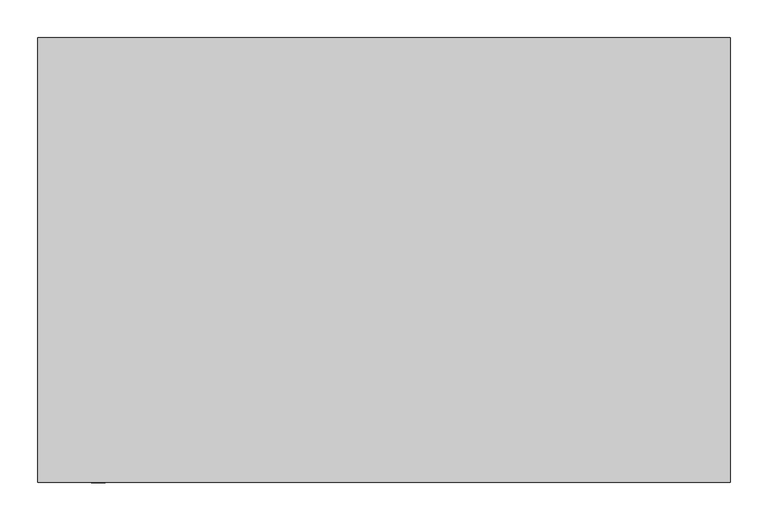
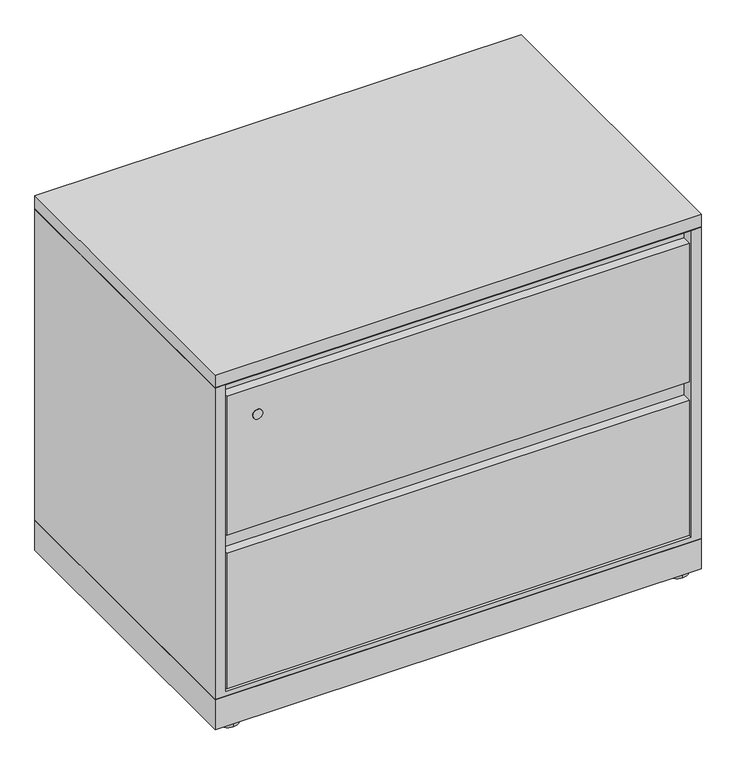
"""IFC4 building model written with IfcOpenShell, lengths in millimetres: furniture geometry, Steelcase - Universal Storage - Lateral File - 2 High - Flush Steel : 23 1/8D x 36W."""

from ifc_helpers import new_model, si_unit, point, frame, frame_2d, origin, origin_with_axes, place, context, project, spatial, polyline, circle_curve, trimmed, segment, composite_curve, outline, extrude, faceted_brep, source, transform, mapped, element, save


def furniture_c1bc510e(model_context):
    return source(origin(), model_context, "Body", "SolidModel", [
        extrude(outline(polyline([(914.4, 587.502), (914.4, 0.0), (0.0, 0.0), (0.0, 587.502), (914.4, 587.502)])), frame((0.0, 0.0, 685.7999516), z_axis=(0.0, 0.0, 1.0), x_axis=(1.0, 0.0, 0.0)), (0.0, 0.0, 1.0), 25.4),
        extrude(outline(polyline([(914.4, 587.502), (914.4, 0.0), (0.0, 0.0), (0.0, 587.502), (914.4, 587.502)])), frame((0.0, 0.0, 6.3500002), z_axis=(0.0, 0.0, 1.0), x_axis=(1.0, 0.0, 0.0)), (0.0, 0.0, 1.0), 59.6899998),
        extrude(outline(composite_curve([segment(trimmed(circle_curve(frame_2d((879.7290058, 565.1653666)), 20.32), [point((879.7290058, 544.8453666))], [point((879.7290058, 585.4853666))], False, "CARTESIAN"), True, "CONTINUOUS"), segment(trimmed(circle_curve(frame_2d((879.7290058, 565.1653666)), 20.32), [point((879.7290058, 585.4853666))], [point((879.7290058, 544.8453666))], False, "CARTESIAN"), True, "CONTINUOUS")], self_intersect=False)), origin_with_axes(), (0.0, 0.0, 1.0), 6.3500002),
        extrude(outline(composite_curve([segment(trimmed(circle_curve(frame_2d((879.7290058, 20.7491455)), 20.32), [point((879.7290058, 0.4291455))], [point((879.7290058, 41.0691455))], False, "CARTESIAN"), True, "CONTINUOUS"), segment(trimmed(circle_curve(frame_2d((879.7290058, 20.7491455)), 20.32), [point((879.7290058, 41.0691455))], [point((879.7290058, 0.4291455))], False, "CARTESIAN"), True, "CONTINUOUS")], self_intersect=False)), origin_with_axes(), (0.0, 0.0, 1.0), 6.3500002),
        extrude(outline(composite_curve([segment(trimmed(circle_curve(frame_2d((34.29, 565.1653666)), 20.32), [point((34.29, 585.4853666))], [point((34.29, 544.8453666))], False, "CARTESIAN"), True, "CONTINUOUS"), segment(trimmed(circle_curve(frame_2d((34.29, 565.1653666)), 20.32), [point((34.29, 544.8453666))], [point((34.29, 585.4853666))], False, "CARTESIAN"), True, "CONTINUOUS")], self_intersect=False)), origin_with_axes(), (0.0, 0.0, 1.0), 6.3500002),
        extrude(outline(composite_curve([segment(trimmed(circle_curve(frame_2d((34.29, 20.7491455)), 20.32), [point((34.29, 41.0691455))], [point((34.29, 0.4291455))], False, "CARTESIAN"), True, "CONTINUOUS"), segment(trimmed(circle_curve(frame_2d((34.29, 20.7491455)), 20.32), [point((34.29, 0.4291455))], [point((34.29, 41.0691455))], False, "CARTESIAN"), True, "CONTINUOUS")], self_intersect=False)), origin_with_axes(), (0.0, 0.0, 1.0), 6.3500002),
        extrude(outline(polyline([(568.0964128, 396.7988176), (568.0964128, 410.7687861), (571.271412, 410.7687861), (571.271412, 371.5257963), (26.822418, 371.5257963), (26.822418, 396.7988176), (568.0964128, 396.7988176)])), frame((22.0472, 0.0, 0.0), z_axis=(1.0, 0.0, 0.0), x_axis=(0.0, 1.0, 0.0)), (0.0, 0.0, 1.0), 870.3056),
        extrude(outline(polyline([(1.45e-05, 685.7999516), (587.502, 685.7999516), (586.7399879, 685.0379394), (0.7620266, 685.0379394), (1.45e-05, 685.7999516)])), frame((0.0, 0.0, 0.0), z_axis=(1.0, 0.0, 0.0), x_axis=(0.0, 1.0, 0.0)), (0.0, 0.0, 1.0), 914.4),
        faceted_brep([(914.4, 0.0, 66.04), (914.4, 587.502, 66.04), (914.4, 587.502, 685.0379394), (914.4, 0.0, 685.0379394), (0.0, 0.0, 685.0379394), (0.0, 587.502, 685.0379394), (0.0, 587.502, 66.04), (0.0, 0.0, 66.04), (895.35, 0.0, 685.0379394), (895.35, 0.0, 75.1586), (19.05, 0.0, 75.1586), (19.05, 0.0, 685.0379394), (19.05, 584.3269999, 685.0379394), (895.35, 584.3269999, 685.0379394), (19.05, 584.3269999, 75.1586), (895.35, 584.3269999, 75.1586)], [[[0, 1, 2, 3]], [[4, 5, 6, 7]], [[0, 3, 8, 9, 10, 11, 4, 7]], [[2, 1, 6, 5]], [[3, 2, 5, 4, 11, 12, 13, 8]], [[12, 14, 15, 13]], [[14, 12, 11, 10]], [[13, 15, 9, 8]], [[1, 0, 7, 6]], [[10, 9, 15, 14]]]),
        extrude(outline(polyline([(23.6541043, 79.2988025), (1.5178885, 79.2988025), (1.5178885, 348.1577823), (19.3741023, 348.1577823), (19.3741023, 378.7648167), (23.6541043, 378.7648167), (23.6541043, 79.2988025)])), frame((22.0472, 0.0, 0.0), z_axis=(1.0, 0.0, 0.0), x_axis=(0.0, 1.0, 0.0)), (0.0, 0.0, 1.0), 870.3056),
        extrude(outline(polyline([(23.6541043, 384.1241916), (1.5178885, 384.1241916), (1.5178885, 660.4), (19.3741023, 660.4), (19.3741023, 684.2759167), (23.6541043, 684.2759167), (23.6541043, 384.1241916)])), frame((22.0472, 0.0, 0.0), z_axis=(1.0, 0.0, 0.0), x_axis=(0.0, 1.0, 0.0)), (0.0, 0.0, 1.0), 870.3056),
        extrude(outline(composite_curve([segment(trimmed(circle_curve(frame_2d((606.1930374, 79.5245518)), 9.2851891), [point((606.1930374, 70.2393627))], [point((606.1930374, 88.8097409))], False, "CARTESIAN"), True, "CONTINUOUS"), segment(trimmed(circle_curve(frame_2d((606.1930374, 79.5245518)), 9.2851891), [point((606.1930374, 88.8097409))], [point((606.1930374, 70.2393627))], False, "CARTESIAN"), True, "CONTINUOUS")], self_intersect=False)), frame((0.0, -1.044398, 0.0), z_axis=(0.0, 1.0, 0.0), x_axis=(0.0, 0.0, 1.0)), (0.0, 0.0, 1.0), 1.044398),
    ])


if __name__ == "__main__":
    model = new_model("IFC4")
    model_context = context("Model", 3, world=origin())
    ifc_project = project(units=[si_unit("LENGTHUNIT", "METRE", prefix="MILLI")], contexts=[model_context])
    site = spatial("IfcSite", under=ifc_project)
    building = spatial("IfcBuilding", under=site)
    placement = place(None, origin())
    furniture_shape = furniture_c1bc510e(model_context)
    element("IfcFurniture", 1, ObjectType="Steelcase - Universal Storage - Lateral File - 2 High - Flush Steel : 23 1/8D x 36W", at=placement, inside=building, context=model_context, shape_type="MappedRepresentation", body=[
        mapped(furniture_shape, transform((0.0, 0.0, 0.0), x_axis=(1.0, 0.0, 0.0), y_axis=(0.0, 1.0, 0.0), z_axis=(0.0, 0.0, 1.0))),
    ])
    save(model, "model.ifc")
